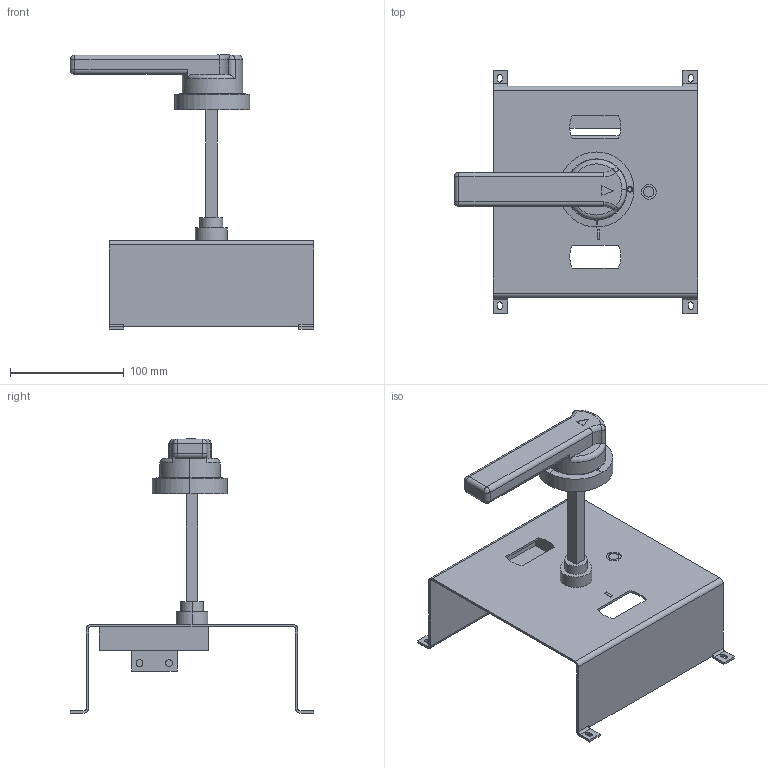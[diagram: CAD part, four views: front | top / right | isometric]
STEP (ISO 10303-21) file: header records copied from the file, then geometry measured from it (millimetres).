
FILE_DESCRIPTION (( 'STEP AP203' ), '1' );
FILE_NAME ('Ðó÷íîé ïîâîðîòíûé ïðèâîä ê ÂÀ-99Ì 630À.STEP', '2018-06-09T05:21:22', ( '' ), ( '' ), 'SwSTEP 2.0', 'SolidWorks 2017', '' );
FILE_SCHEMA (( 'CONFIG_CONTROL_DESIGN' ));
Length unit declared in the file: millimetre
Products named in the file (1): Ðó÷íîé ïîâîðîòíûé ïðèâîä ê ÂÀ-99Ì 630À
Bounding box: 214 x 214 x 241.2 mm (x, y, z)
Volume: 323971 mm3; surface area: 169436 mm2
Topology: 1 solids, 1 shells, 177 faces, 461 edges, 295 vertices
Faces by surface type: plane 96, cylinder 60, torus 6, sphere 6, cone 5, bspline 4
Entity records: 5739 total; most frequent: CARTESIAN_POINT 1262, DIRECTION 912, ORIENTED_EDGE 906, EDGE_CURVE 453, AXIS2_PLACEMENT_3D 311, VERTEX_POINT 293, LINE 290, VECTOR 290
